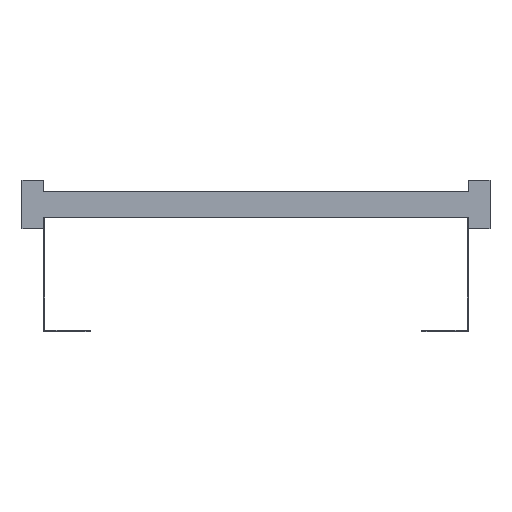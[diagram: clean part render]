
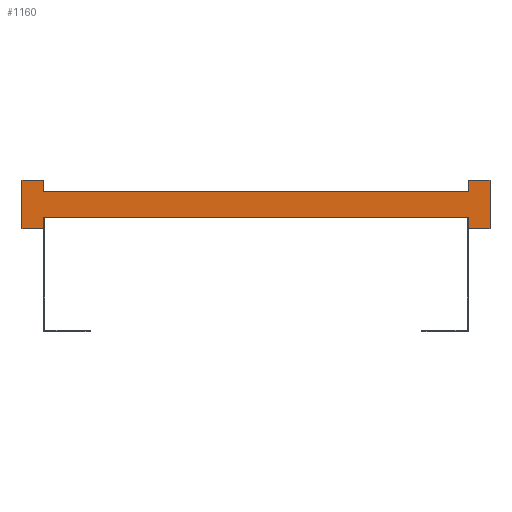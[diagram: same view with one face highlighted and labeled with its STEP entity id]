
A CAD part, front view. The second image highlights one B-rep face of the part: STEP entity #1160.
In plain terms, the highlighted planar face has unit normal (0, -1, 0).
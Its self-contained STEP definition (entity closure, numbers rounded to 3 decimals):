
#113=DIRECTION('',(0.,0.,1.));
#114=VECTOR('',#113,13.5);
#115=CARTESIAN_POINT('',(250.,0.,-28.5));
#116=LINE('',#115,#114);
#117=DIRECTION('',(0.,0.,-1.));
#118=VECTOR('',#117,13.5);
#119=CARTESIAN_POINT('',(-250.,0.,-15.));
#120=LINE('',#119,#118);
#121=DIRECTION('',(-1.,0.,0.));
#122=VECTOR('',#121,25.);
#123=CARTESIAN_POINT('',(-250.,0.,-28.5));
#124=LINE('',#123,#122);
#125=DIRECTION('',(0.,0.,1.));
#126=VECTOR('',#125,57.);
#127=CARTESIAN_POINT('',(-275.,0.,-28.5));
#128=LINE('',#127,#126);
#129=DIRECTION('',(1.,0.,0.));
#130=VECTOR('',#129,25.);
#131=CARTESIAN_POINT('',(-275.,0.,28.5));
#132=LINE('',#131,#130);
#133=DIRECTION('',(0.,0.,-1.));
#134=VECTOR('',#133,13.5);
#135=CARTESIAN_POINT('',(-250.,0.,28.5));
#136=LINE('',#135,#134);
#137=DIRECTION('',(0.,0.,1.));
#138=VECTOR('',#137,13.5);
#139=CARTESIAN_POINT('',(250.,0.,15.));
#140=LINE('',#139,#138);
#141=DIRECTION('',(1.,0.,0.));
#142=VECTOR('',#141,25.);
#143=CARTESIAN_POINT('',(250.,0.,28.5));
#144=LINE('',#143,#142);
#145=DIRECTION('',(0.,0.,-1.));
#146=VECTOR('',#145,57.);
#147=CARTESIAN_POINT('',(275.,0.,28.5));
#148=LINE('',#147,#146);
#149=DIRECTION('',(-1.,0.,0.));
#150=VECTOR('',#149,25.);
#151=CARTESIAN_POINT('',(275.,0.,-28.5));
#152=LINE('',#151,#150);
#865=DIRECTION('',(1.,0.,0.));
#866=VECTOR('',#865,500.);
#867=CARTESIAN_POINT('',(-250.,0.,-15.));
#868=LINE('',#867,#866);
#877=DIRECTION('',(1.,0.,0.));
#878=VECTOR('',#877,500.);
#879=CARTESIAN_POINT('',(-250.,0.,15.));
#880=LINE('',#879,#878);
#881=CARTESIAN_POINT('',(-275.,0.,28.5));
#882=CARTESIAN_POINT('',(-250.,0.,28.5));
#883=VERTEX_POINT('',#881);
#884=VERTEX_POINT('',#882);
#885=CARTESIAN_POINT('',(-250.,0.,-28.5));
#886=CARTESIAN_POINT('',(-275.,0.,-28.5));
#887=VERTEX_POINT('',#885);
#888=VERTEX_POINT('',#886);
#889=CARTESIAN_POINT('',(275.,0.,28.5));
#890=CARTESIAN_POINT('',(275.,0.,-28.5));
#891=VERTEX_POINT('',#889);
#892=VERTEX_POINT('',#890);
#893=CARTESIAN_POINT('',(250.,0.,-28.5));
#894=VERTEX_POINT('',#893);
#895=CARTESIAN_POINT('',(250.,0.,28.5));
#896=VERTEX_POINT('',#895);
#913=CARTESIAN_POINT('',(-250.,0.,-15.));
#915=VERTEX_POINT('',#913);
#917=CARTESIAN_POINT('',(-250.,0.,15.));
#919=VERTEX_POINT('',#917);
#921=CARTESIAN_POINT('',(250.,0.,-15.));
#923=VERTEX_POINT('',#921);
#925=CARTESIAN_POINT('',(250.,0.,15.));
#927=VERTEX_POINT('',#925);
#1129=CARTESIAN_POINT('',(0.,0.,0.));
#1130=DIRECTION('',(0.,1.,0.));
#1131=DIRECTION('',(1.,0.,0.));
#1132=AXIS2_PLACEMENT_3D('',#1129,#1130,#1131);
#1133=PLANE('',#1132);
#1135=ORIENTED_EDGE('',*,*,#1134,.T.);
#1137=ORIENTED_EDGE('',*,*,#1136,.F.);
#1139=ORIENTED_EDGE('',*,*,#1138,.T.);
#1141=ORIENTED_EDGE('',*,*,#1140,.T.);
#1143=ORIENTED_EDGE('',*,*,#1142,.T.);
#1145=ORIENTED_EDGE('',*,*,#1144,.T.);
#1147=ORIENTED_EDGE('',*,*,#1146,.T.);
#1149=ORIENTED_EDGE('',*,*,#1148,.T.);
#1151=ORIENTED_EDGE('',*,*,#1150,.T.);
#1153=ORIENTED_EDGE('',*,*,#1152,.T.);
#1155=ORIENTED_EDGE('',*,*,#1154,.T.);
#1157=ORIENTED_EDGE('',*,*,#1156,.T.);
#1158=EDGE_LOOP('',(#1135,#1137,#1139,#1141,#1143,#1145,#1147,#1149,#1151,#1153,
#1155,#1157));
#1159=FACE_OUTER_BOUND('',#1158,.F.);
#1134=EDGE_CURVE('',#894,#923,#116,.T.);
#1136=EDGE_CURVE('',#915,#923,#868,.T.);
#1138=EDGE_CURVE('',#915,#887,#120,.T.);
#1140=EDGE_CURVE('',#887,#888,#124,.T.);
#1142=EDGE_CURVE('',#888,#883,#128,.T.);
#1144=EDGE_CURVE('',#883,#884,#132,.T.);
#1146=EDGE_CURVE('',#884,#919,#136,.T.);
#1148=EDGE_CURVE('',#919,#927,#880,.T.);
#1150=EDGE_CURVE('',#927,#896,#140,.T.);
#1152=EDGE_CURVE('',#896,#891,#144,.T.);
#1154=EDGE_CURVE('',#891,#892,#148,.T.);
#1156=EDGE_CURVE('',#892,#894,#152,.T.);
#1160=ADVANCED_FACE('',(#1159),#1133,.F.);
